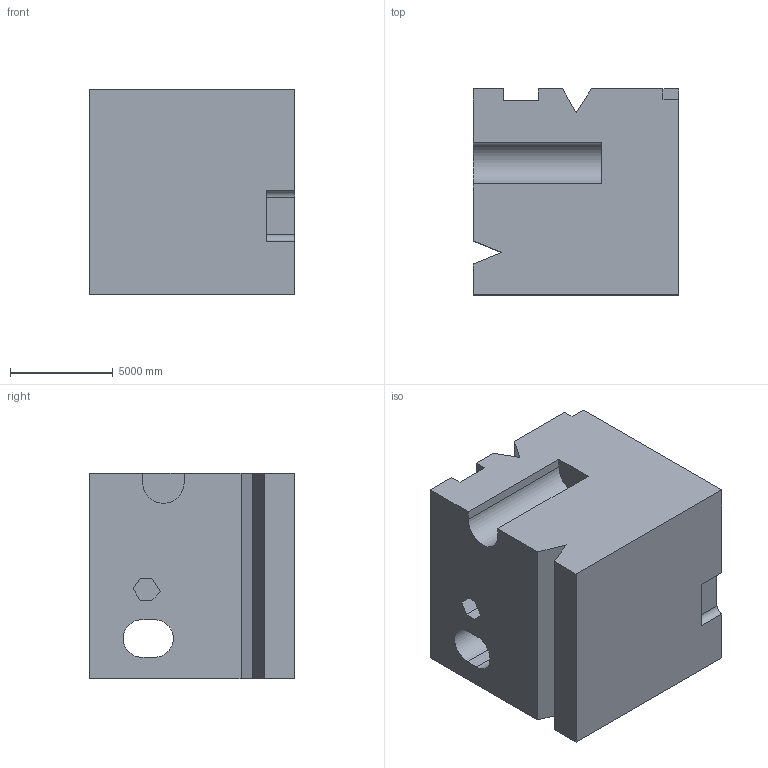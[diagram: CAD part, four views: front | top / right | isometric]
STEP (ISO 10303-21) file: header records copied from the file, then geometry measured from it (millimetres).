
FILE_DESCRIPTION (( 'STEP AP203' ), '1' );
FILE_NAME ('73.STEP', '2022-09-02T14:01:22', ( 'user' ), ( '' ), 'SwSTEP 2.0', 'SolidWorks 2021', '' );
FILE_SCHEMA (( 'CONFIG_CONTROL_DESIGN' ));
Length unit declared in the file: centimetre
Products named in the file (1): 73
Bounding box: 10000 x 10000 x 10000 mm (x, y, z)
Volume: 915949044291.2 mm3; surface area: 727760795.9 mm2
Topology: 1 solids, 1 shells, 38 faces, 105 edges, 70 vertices
Faces by surface type: plane 33, cylinder 5
Entity records: 1280 total; most frequent: CARTESIAN_POINT 214, ORIENTED_EDGE 210, DIRECTION 193, EDGE_CURVE 105, LINE 95, VECTOR 95, VERTEX_POINT 70, AXIS2_PLACEMENT_3D 49
